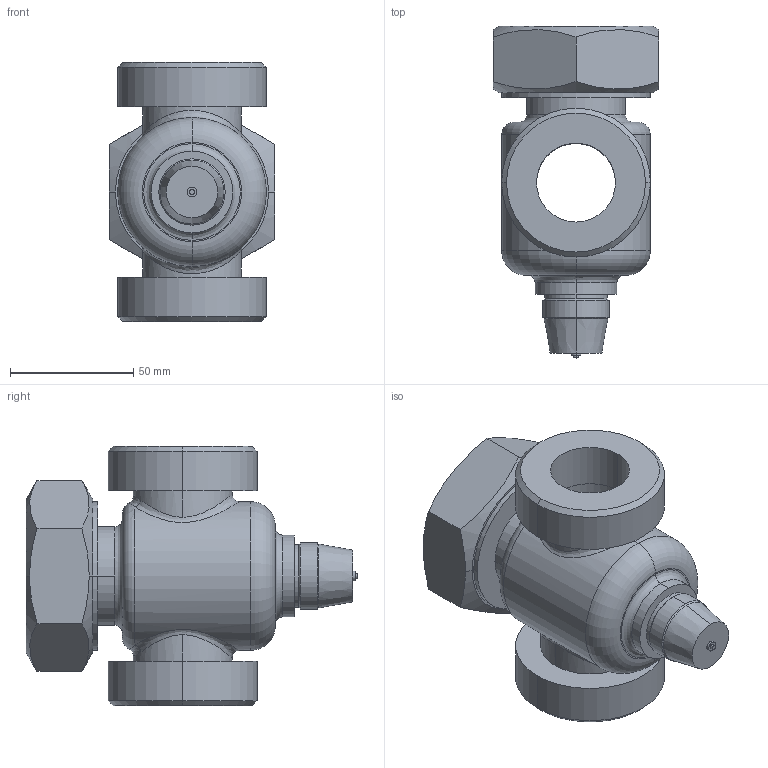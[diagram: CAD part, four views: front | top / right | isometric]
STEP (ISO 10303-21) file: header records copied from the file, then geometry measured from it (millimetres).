
FILE_DESCRIPTION((''),'2;1');
FILE_NAME('000385.dwg.stp','2006-10-04T11:28:59',(''),(''),'Mechanical Desktop 2006','Mechanical Desktop 2006',', , ');
FILE_SCHEMA(('AUTOMOTIVE_DESIGN { 1 2 10303 214 0 1 1 1 }'));
Length unit declared in the file: millimetre
Products named in the file (1): Product
Bounding box: 67 x 134.5 x 105 mm (x, y, z)
Volume: 312955.6 mm3; surface area: 73968.5 mm2
Topology: 10 solids, 10 shells, 95 faces, 204 edges, 131 vertices
Faces by surface type: cylinder 32, plane 27, cone 16, bspline 16, torus 4
Entity records: 3594 total; most frequent: CARTESIAN_POINT 1487, DIRECTION 445, ORIENTED_EDGE 408, EDGE_CURVE 204, AXIS2_PLACEMENT_3D 193, VERTEX_POINT 131, CIRCLE 109, EDGE_LOOP 107
